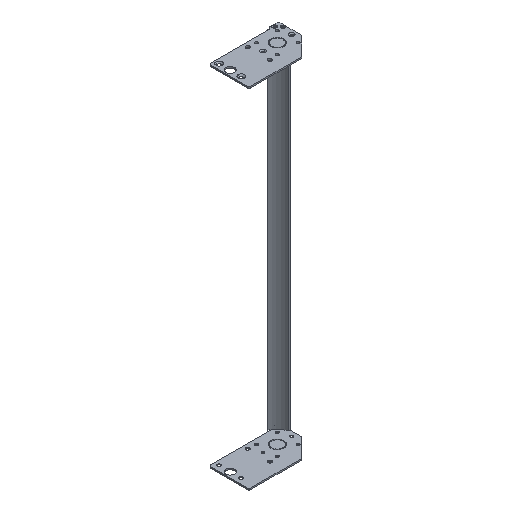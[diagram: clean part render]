
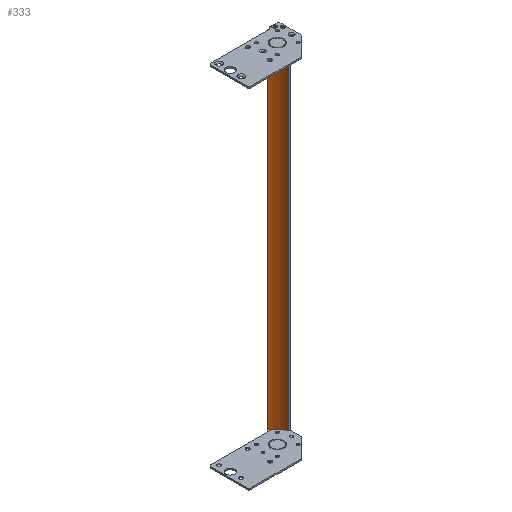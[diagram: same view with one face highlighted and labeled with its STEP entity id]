
A CAD part, isometric view. The second image highlights one B-rep face of the part: STEP entity #333.
In plain terms, the highlighted cylindrical face has radius 40.64 mm (diameter 81.28 mm), a partial arc.
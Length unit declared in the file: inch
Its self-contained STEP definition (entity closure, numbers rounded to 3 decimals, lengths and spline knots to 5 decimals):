
#40=CARTESIAN_POINT('',(-1.52,1.63,-15.118));
#41=DIRECTION('',(0.,0.,-1.));
#42=DIRECTION('',(0.914,-0.405,0.));
#43=AXIS2_PLACEMENT_3D('',#40,#41,#42);
#87=CARTESIAN_POINT('',(-1.52,1.63,15.118));
#88=DIRECTION('',(0.,0.,-1.));
#89=DIRECTION('',(0.914,-0.405,0.));
#90=AXIS2_PLACEMENT_3D('',#87,#88,#89);
#118=DIRECTION('',(0.,0.,1.));
#119=VECTOR('',#118,30.236);
#120=CARTESIAN_POINT('',(-1.00032,0.11675,-15.118));
#121=LINE('',#120,#119);
#122=DIRECTION('',(0.,0.,1.));
#123=VECTOR('',#122,30.236);
#124=CARTESIAN_POINT('',(-0.05742,0.98126,-15.118));
#125=LINE('',#124,#123);
#154=CARTESIAN_POINT('',(-0.05742,0.98126,-15.118));
#155=VERTEX_POINT('',#154);
#156=CARTESIAN_POINT('',(-1.00032,0.11675,-15.118));
#157=VERTEX_POINT('',#156);
#174=CARTESIAN_POINT('',(-0.05742,0.98126,15.118));
#175=VERTEX_POINT('',#174);
#176=CARTESIAN_POINT('',(-1.00032,0.11675,15.118));
#177=VERTEX_POINT('',#176);
#321=CARTESIAN_POINT('',(-1.52,1.63,-15.118));
#322=DIRECTION('',(0.,0.,1.));
#323=DIRECTION('',(1.,0.,0.));
#324=AXIS2_PLACEMENT_3D('',#321,#322,#323);
#325=CYLINDRICAL_SURFACE('',#324,1.6);
#326=ORIENTED_EDGE('',*,*,#191,.F.);
#328=ORIENTED_EDGE('',*,*,#327,.T.);
#329=ORIENTED_EDGE('',*,*,#247,.T.);
#330=ORIENTED_EDGE('',*,*,#314,.F.);
#331=EDGE_LOOP('',(#326,#328,#329,#330));
#332=FACE_OUTER_BOUND('',#331,.F.);
#44=CIRCLE('',#43,1.6);
#91=CIRCLE('',#90,1.6);
#191=EDGE_CURVE('',#155,#157,#44,.T.);
#247=EDGE_CURVE('',#175,#177,#91,.T.);
#314=EDGE_CURVE('',#157,#177,#121,.T.);
#327=EDGE_CURVE('',#155,#175,#125,.T.);
#333=ADVANCED_FACE('',(#332),#325,.F.);
